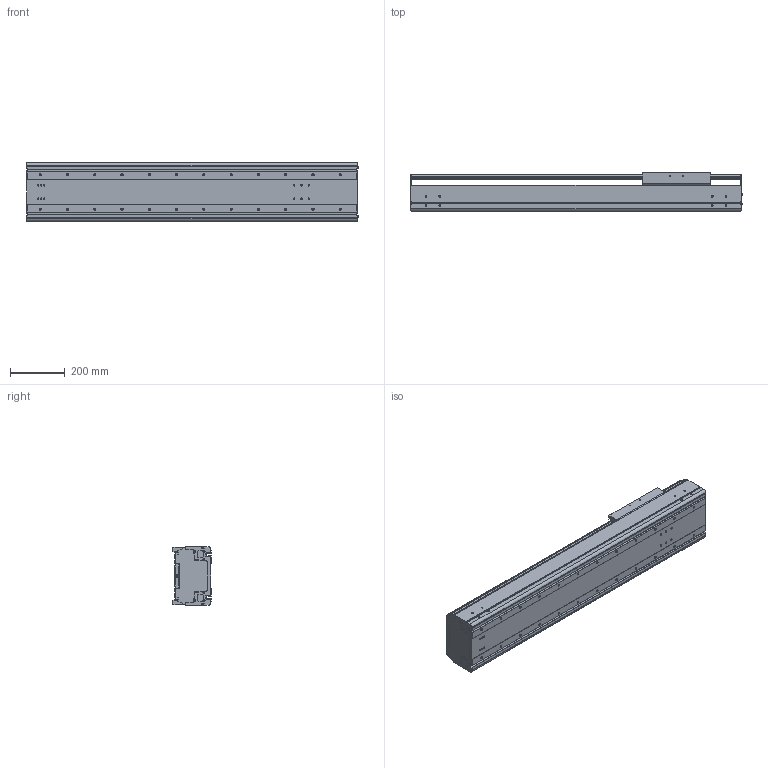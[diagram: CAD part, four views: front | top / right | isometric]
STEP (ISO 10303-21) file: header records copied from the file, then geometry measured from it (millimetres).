
FILE_DESCRIPTION((''),'2;1');
FILE_NAME('BE60G-ST-M_N-80_IGS_PRT','2017-06-18T',(' '),(''),'PRO/ENGINEER BY PARAMETRIC TECHNOLOGY CORPORATION, 2015030','PRO/ENGINEER BY PARAMETRIC TECHNOLOGY CORPORATION, 2015030','');
FILE_SCHEMA(('CONFIG_CONTROL_DESIGN'));
Length unit declared in the file: millimetre
Products named in the file (1): BE60G-ST-M_N-80_IGS_PRT
Bounding box: 1217.4 x 140 x 214 mm (x, y, z)
Volume: 9901233 mm3; surface area: 2638674.7 mm2
Topology: 2 solids, 132 shells, 1510 faces, 4204 edges, 2759 vertices
Faces by surface type: cylinder 760, plane 602, cone 100, sphere 24, torus 24
Entity records: 50113 total; most frequent: CARTESIAN_POINT 10997, DIRECTION 8288, ORIENTED_EDGE 7700, EDGE_CURVE 4106, AXIS2_PLACEMENT_3D 3083, VERTEX_POINT 2758, VECTOR 2122, LINE 2122
